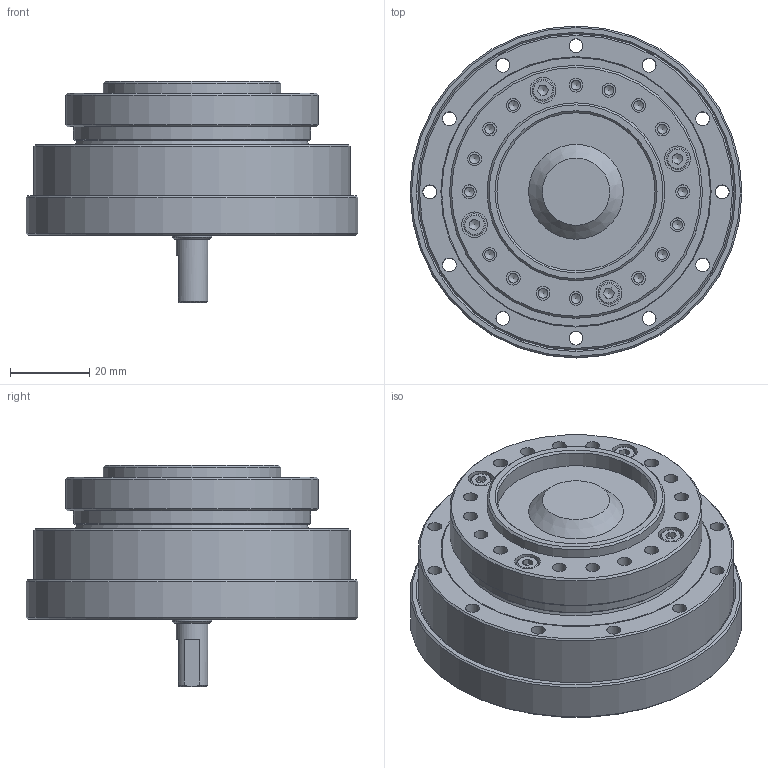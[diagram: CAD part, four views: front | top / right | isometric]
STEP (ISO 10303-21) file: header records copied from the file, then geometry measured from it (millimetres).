
FILE_DESCRIPTION(/* description */ (''),/* implementation_level */ '2;1');
FILE_NAME(/* name */ 'S:\TB00F\研發課二組\機密級\1.\X2\8A2D8A08\X0\\01-DT\DT圖面-y\2.組合圖\\X2\6A21578B\X0\\WTI-S-XX-AJ\WTI-S-17-80-AJ.stp',/* time_stamp */ '2021-02-01T17:05:36+08:00',/* author */ ('yin210'),/* organization */ (''),/* preprocessor_version */ 'ST-DEVELOPER v15.2',/* originating_system */ 'Autodesk Inventor 2014',/* authorisation */ '');
FILE_SCHEMA (('AUTOMOTIVE_DESIGN { 1 0 10303 214 3 1 1 }'));
Length unit declared in the file: centimetre
Products named in the file (1): WTI-S-17-80-AJ
Bounding box: 84 x 84 x 56 mm (x, y, z)
Volume: 155799.4 mm3; surface area: 30461.4 mm2
Topology: 1 solids, 17 shells, 396 faces, 862 edges, 562 vertices
Faces by surface type: plane 148, cylinder 122, cone 110, torus 16
Full cylindrical faces by diameter (mm): 2 x1, 2.459 x20, 2.85 x4, 3 x8, 3.5 x64, 5.5 x4, 5.7 x4, 6.5 x8, 8 x1, 10 x1, 40 x1, 45 x1, 60 x1, 64 x1, 68 x1, 80 x1, 84 x1
Entity records: 8728 total; most frequent: DIRECTION 1582, CARTESIAN_POINT 1443, ORIENTED_EDGE 996, EDGE_LOOP 744, AXIS2_PLACEMENT_3D 739, EDGE_CURVE 498, VERTEX_POINT 444, FACE_BOUND 417
